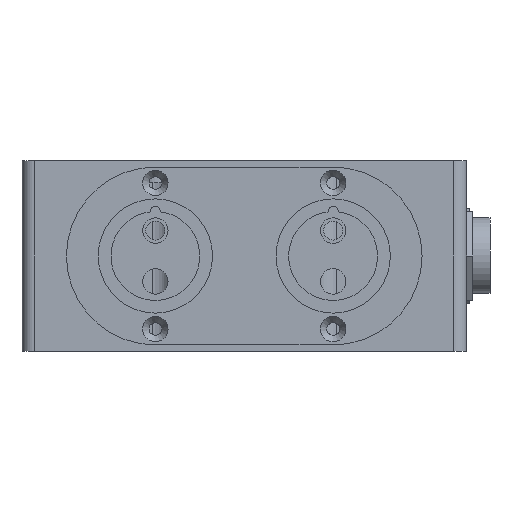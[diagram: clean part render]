
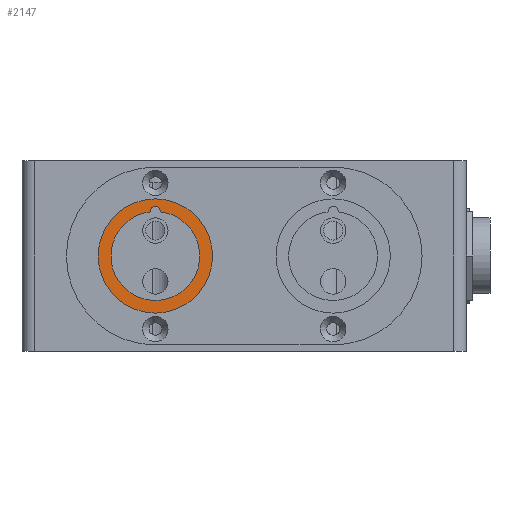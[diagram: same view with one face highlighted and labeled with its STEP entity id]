
A CAD part, left-side view. The second image highlights one B-rep face of the part: STEP entity #2147.
In plain terms, the highlighted planar face has unit normal (-1, 0, 0).
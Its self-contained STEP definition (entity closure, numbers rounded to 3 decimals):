
#2147 = ADVANCED_FACE('',(#2148,#2257),#2163,.F.);
#2148 = FACE_BOUND('',#2149,.T.);
#2149 = EDGE_LOOP('',(#2150,#2208));
#2150 = ORIENTED_EDGE('',*,*,#2151,.T.);
#2151 = EDGE_CURVE('',#2152,#2154,#2156,.T.);
#2152 = VERTEX_POINT('',#2153);
#2153 = CARTESIAN_POINT('',(-13.,46.799,21.954));
#2154 = VERTEX_POINT('',#2155);
#2155 = CARTESIAN_POINT('',(-13.,45.201,21.954));
#2156 = SURFACE_CURVE('',#2157,(#2162,#2174),.PCURVE_S1.);
#2157 = CIRCLE('',#2158,0.8);
#2158 = AXIS2_PLACEMENT_3D('',#2159,#2160,#2161);
#2159 = CARTESIAN_POINT('',(-13.,46.,22.));
#2160 = DIRECTION('',(1.,0.,0.));
#2161 = DIRECTION('',(0.,0.,-1.));
#2162 = PCURVE('',#2163,#2168);
#2163 = PLANE('',#2164);
#2164 = AXIS2_PLACEMENT_3D('',#2165,#2166,#2167);
#2165 = CARTESIAN_POINT('',(-13.,46.,15.));
#2166 = DIRECTION('',(1.,0.,0.));
#2167 = DIRECTION('',(0.,0.,1.));
#2168 = DEFINITIONAL_REPRESENTATION('',(#2169),#2173);
#2169 = CIRCLE('',#2170,0.8);
#2170 = AXIS2_PLACEMENT_2D('',#2171,#2172);
#2171 = CARTESIAN_POINT('',(7.,0.));
#2172 = DIRECTION('',(-1.,0.));
#2173 = ( GEOMETRIC_REPRESENTATION_CONTEXT(2) 
PARAMETRIC_REPRESENTATION_CONTEXT() REPRESENTATION_CONTEXT('2D SPACE',''
  ) );
#2174 = PCURVE('',#2175,#2180);
#2175 = CYLINDRICAL_SURFACE('',#2176,0.8);
#2176 = AXIS2_PLACEMENT_3D('',#2177,#2178,#2179);
#2177 = CARTESIAN_POINT('',(-13.,46.,22.));
#2178 = DIRECTION('',(-1.,0.,0.));
#2179 = DIRECTION('',(0.,0.,-1.));
#2180 = DEFINITIONAL_REPRESENTATION('',(#2181),#2207);
#2181 = B_SPLINE_CURVE_WITH_KNOTS('',3,(#2182,#2183,#2184,#2185,#2186,
    #2187,#2188,#2189,#2190,#2191,#2192,#2193,#2194,#2195,#2196,#2197,
    #2198,#2199,#2200,#2201,#2202,#2203,#2204,#2205,#2206),
  .UNSPECIFIED.,.F.,.F.,(4,1,1,1,1,1,1,1,1,1,1,1,1,1,1,1,1,1,1,1,1,1,4),
  (1.514,1.662,1.81,1.958,
    2.106,2.254,2.402,2.55,
    2.698,2.846,2.994,3.142,
    3.29,3.438,3.586,3.734,
    3.882,4.03,4.178,4.326,
    4.474,4.622,4.77),
  .QUASI_UNIFORM_KNOTS.);
#2182 = CARTESIAN_POINT('',(4.77,0.));
#2183 = CARTESIAN_POINT('',(4.72,0.));
#2184 = CARTESIAN_POINT('',(4.622,0.));
#2185 = CARTESIAN_POINT('',(4.474,0.));
#2186 = CARTESIAN_POINT('',(4.326,0.));
#2187 = CARTESIAN_POINT('',(4.178,0.));
#2188 = CARTESIAN_POINT('',(4.03,0.));
#2189 = CARTESIAN_POINT('',(3.882,0.));
#2190 = CARTESIAN_POINT('',(3.734,0.));
#2191 = CARTESIAN_POINT('',(3.586,0.));
#2192 = CARTESIAN_POINT('',(3.438,0.));
#2193 = CARTESIAN_POINT('',(3.29,0.));
#2194 = CARTESIAN_POINT('',(3.142,0.));
#2195 = CARTESIAN_POINT('',(2.994,0.));
#2196 = CARTESIAN_POINT('',(2.846,0.));
#2197 = CARTESIAN_POINT('',(2.698,0.));
#2198 = CARTESIAN_POINT('',(2.55,0.));
#2199 = CARTESIAN_POINT('',(2.402,0.));
#2200 = CARTESIAN_POINT('',(2.254,0.));
#2201 = CARTESIAN_POINT('',(2.106,0.));
#2202 = CARTESIAN_POINT('',(1.958,0.));
#2203 = CARTESIAN_POINT('',(1.81,0.));
#2204 = CARTESIAN_POINT('',(1.662,0.));
#2205 = CARTESIAN_POINT('',(1.563,0.));
#2206 = CARTESIAN_POINT('',(1.514,0.));
#2207 = ( GEOMETRIC_REPRESENTATION_CONTEXT(2) 
PARAMETRIC_REPRESENTATION_CONTEXT() REPRESENTATION_CONTEXT('2D SPACE',''
  ) );
#2208 = ORIENTED_EDGE('',*,*,#2209,.T.);
#2209 = EDGE_CURVE('',#2154,#2152,#2210,.T.);
#2210 = SURFACE_CURVE('',#2211,(#2216,#2223),.PCURVE_S1.);
#2211 = CIRCLE('',#2212,7.);
#2212 = AXIS2_PLACEMENT_3D('',#2213,#2214,#2215);
#2213 = CARTESIAN_POINT('',(-13.,46.,15.));
#2214 = DIRECTION('',(1.,0.,0.));
#2215 = DIRECTION('',(0.,0.,-1.));
#2216 = PCURVE('',#2163,#2217);
#2217 = DEFINITIONAL_REPRESENTATION('',(#2218),#2222);
#2218 = CIRCLE('',#2219,7.);
#2219 = AXIS2_PLACEMENT_2D('',#2220,#2221);
#2220 = CARTESIAN_POINT('',(0.,0.));
#2221 = DIRECTION('',(-1.,0.));
#2222 = ( GEOMETRIC_REPRESENTATION_CONTEXT(2) 
PARAMETRIC_REPRESENTATION_CONTEXT() REPRESENTATION_CONTEXT('2D SPACE',''
  ) );
#2223 = PCURVE('',#2224,#2229);
#2224 = CYLINDRICAL_SURFACE('',#2225,7.);
#2225 = AXIS2_PLACEMENT_3D('',#2226,#2227,#2228);
#2226 = CARTESIAN_POINT('',(-13.,46.,15.));
#2227 = DIRECTION('',(-1.,0.,0.));
#2228 = DIRECTION('',(0.,0.,-1.));
#2229 = DEFINITIONAL_REPRESENTATION('',(#2230),#2256);
#2230 = B_SPLINE_CURVE_WITH_KNOTS('',3,(#2231,#2232,#2233,#2234,#2235,
    #2236,#2237,#2238,#2239,#2240,#2241,#2242,#2243,#2244,#2245,#2246,
    #2247,#2248,#2249,#2250,#2251,#2252,#2253,#2254,#2255),
  .UNSPECIFIED.,.F.,.F.,(4,1,1,1,1,1,1,1,1,1,1,1,1,1,1,1,1,1,1,1,1,1,4),
  (3.256,3.531,3.806,4.082,
    4.357,4.632,4.907,5.182,
    5.458,5.733,6.008,6.283,
    6.558,6.834,7.109,7.384,
    7.659,7.934,8.21,8.485,
    8.76,9.035,9.31),
  .QUASI_UNIFORM_KNOTS.);
#2231 = CARTESIAN_POINT('',(3.027,0.));
#2232 = CARTESIAN_POINT('',(2.936,0.));
#2233 = CARTESIAN_POINT('',(2.752,0.));
#2234 = CARTESIAN_POINT('',(2.477,0.));
#2235 = CARTESIAN_POINT('',(2.202,0.));
#2236 = CARTESIAN_POINT('',(1.926,0.));
#2237 = CARTESIAN_POINT('',(1.651,0.));
#2238 = CARTESIAN_POINT('',(1.376,0.));
#2239 = CARTESIAN_POINT('',(1.101,0.));
#2240 = CARTESIAN_POINT('',(0.826,0.));
#2241 = CARTESIAN_POINT('',(0.55,0.));
#2242 = CARTESIAN_POINT('',(0.275,0.));
#2243 = CARTESIAN_POINT('',(0.,0.));
#2244 = CARTESIAN_POINT('',(-0.275,0.));
#2245 = CARTESIAN_POINT('',(-0.55,0.));
#2246 = CARTESIAN_POINT('',(-0.826,0.));
#2247 = CARTESIAN_POINT('',(-1.101,0.));
#2248 = CARTESIAN_POINT('',(-1.376,0.));
#2249 = CARTESIAN_POINT('',(-1.651,0.));
#2250 = CARTESIAN_POINT('',(-1.926,0.));
#2251 = CARTESIAN_POINT('',(-2.202,0.));
#2252 = CARTESIAN_POINT('',(-2.477,0.));
#2253 = CARTESIAN_POINT('',(-2.752,0.));
#2254 = CARTESIAN_POINT('',(-2.936,0.));
#2255 = CARTESIAN_POINT('',(-3.027,0.));
#2256 = ( GEOMETRIC_REPRESENTATION_CONTEXT(2) 
PARAMETRIC_REPRESENTATION_CONTEXT() REPRESENTATION_CONTEXT('2D SPACE',''
  ) );
#2257 = FACE_BOUND('',#2258,.T.);
#2258 = EDGE_LOOP('',(#2259));
#2259 = ORIENTED_EDGE('',*,*,#2260,.T.);
#2260 = EDGE_CURVE('',#2261,#2261,#2263,.T.);
#2261 = VERTEX_POINT('',#2262);
#2262 = CARTESIAN_POINT('',(-13.,46.,6.));
#2263 = SURFACE_CURVE('',#2264,(#2269,#2280),.PCURVE_S1.);
#2264 = CIRCLE('',#2265,9.);
#2265 = AXIS2_PLACEMENT_3D('',#2266,#2267,#2268);
#2266 = CARTESIAN_POINT('',(-13.,46.,15.));
#2267 = DIRECTION('',(-1.,0.,0.));
#2268 = DIRECTION('',(0.,0.,1.));
#2269 = PCURVE('',#2163,#2270);
#2270 = DEFINITIONAL_REPRESENTATION('',(#2271),#2279);
#2271 = ( BOUNDED_CURVE() B_SPLINE_CURVE(2,(#2272,#2273,#2274,#2275,
#2276,#2277,#2278),.UNSPECIFIED.,.F.,.F.) B_SPLINE_CURVE_WITH_KNOTS((1,2
    ,2,2,2,1),(-2.094,0.,2.094,4.189,
6.283,8.378),.UNSPECIFIED.) CURVE() 
GEOMETRIC_REPRESENTATION_ITEM() RATIONAL_B_SPLINE_CURVE((1.,0.5,1.,0.5,
1.,0.5,1.)) REPRESENTATION_ITEM('') );
#2272 = CARTESIAN_POINT('',(9.,0.));
#2273 = CARTESIAN_POINT('',(9.,-15.588));
#2274 = CARTESIAN_POINT('',(-4.5,-7.794));
#2275 = CARTESIAN_POINT('',(-18.,0.));
#2276 = CARTESIAN_POINT('',(-4.5,7.794));
#2277 = CARTESIAN_POINT('',(9.,15.588));
#2278 = CARTESIAN_POINT('',(9.,0.));
#2279 = ( GEOMETRIC_REPRESENTATION_CONTEXT(2) 
PARAMETRIC_REPRESENTATION_CONTEXT() REPRESENTATION_CONTEXT('2D SPACE',''
  ) );
#2280 = PCURVE('',#2281,#2286);
#2281 = CYLINDRICAL_SURFACE('',#2282,9.);
#2282 = AXIS2_PLACEMENT_3D('',#2283,#2284,#2285);
#2283 = CARTESIAN_POINT('',(-9.,46.,15.));
#2284 = DIRECTION('',(-1.,0.,0.));
#2285 = DIRECTION('',(0.,0.,-1.));
#2286 = DEFINITIONAL_REPRESENTATION('',(#2287),#2313);
#2287 = B_SPLINE_CURVE_WITH_KNOTS('',3,(#2288,#2289,#2290,#2291,#2292,
    #2293,#2294,#2295,#2296,#2297,#2298,#2299,#2300,#2301,#2302,#2303,
    #2304,#2305,#2306,#2307,#2308,#2309,#2310,#2311,#2312),
  .UNSPECIFIED.,.F.,.F.,(4,1,1,1,1,1,1,1,1,1,1,1,1,1,1,1,1,1,1,1,1,1,4),
  (3.142,3.427,3.713,3.998,
    4.284,4.57,4.855,5.141,
    5.426,5.712,5.998,6.283,
    6.569,6.854,7.14,7.426,
    7.711,7.997,8.282,8.568,
    8.854,9.139,9.425),.QUASI_UNIFORM_KNOTS.);
#2288 = CARTESIAN_POINT('',(0.,4.));
#2289 = CARTESIAN_POINT('',(0.095,4.));
#2290 = CARTESIAN_POINT('',(0.286,4.));
#2291 = CARTESIAN_POINT('',(0.571,4.));
#2292 = CARTESIAN_POINT('',(0.857,4.));
#2293 = CARTESIAN_POINT('',(1.142,4.));
#2294 = CARTESIAN_POINT('',(1.428,4.));
#2295 = CARTESIAN_POINT('',(1.714,4.));
#2296 = CARTESIAN_POINT('',(1.999,4.));
#2297 = CARTESIAN_POINT('',(2.285,4.));
#2298 = CARTESIAN_POINT('',(2.57,4.));
#2299 = CARTESIAN_POINT('',(2.856,4.));
#2300 = CARTESIAN_POINT('',(3.142,4.));
#2301 = CARTESIAN_POINT('',(3.427,4.));
#2302 = CARTESIAN_POINT('',(3.713,4.));
#2303 = CARTESIAN_POINT('',(3.998,4.));
#2304 = CARTESIAN_POINT('',(4.284,4.));
#2305 = CARTESIAN_POINT('',(4.57,4.));
#2306 = CARTESIAN_POINT('',(4.855,4.));
#2307 = CARTESIAN_POINT('',(5.141,4.));
#2308 = CARTESIAN_POINT('',(5.426,4.));
#2309 = CARTESIAN_POINT('',(5.712,4.));
#2310 = CARTESIAN_POINT('',(5.998,4.));
#2311 = CARTESIAN_POINT('',(6.188,4.));
#2312 = CARTESIAN_POINT('',(6.283,4.));
#2313 = ( GEOMETRIC_REPRESENTATION_CONTEXT(2) 
PARAMETRIC_REPRESENTATION_CONTEXT() REPRESENTATION_CONTEXT('2D SPACE',''
  ) );
